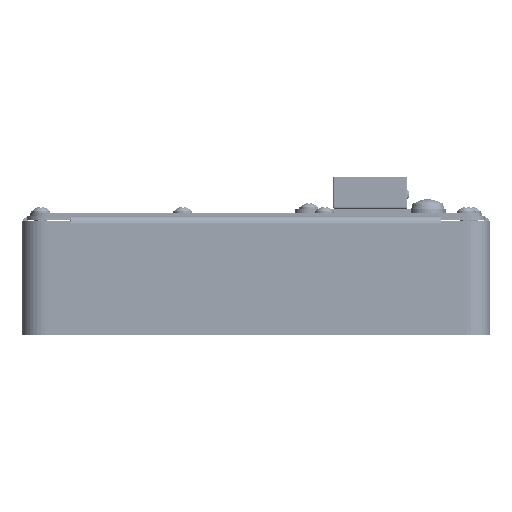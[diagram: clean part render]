
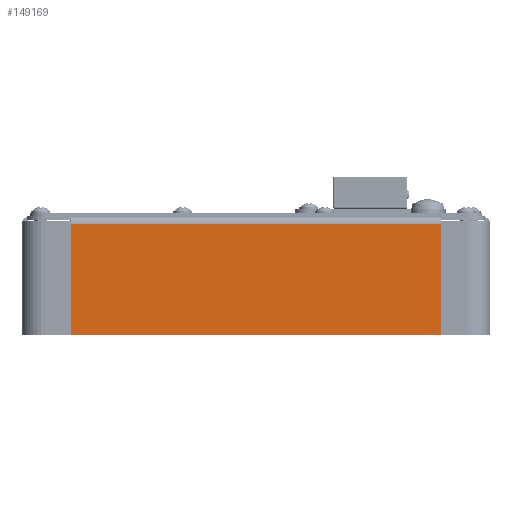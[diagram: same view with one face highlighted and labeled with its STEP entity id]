
A CAD part, left-side view. The second image highlights one B-rep face of the part: STEP entity #149169.
In plain terms, the highlighted planar face has unit normal (-1, 0, 0).
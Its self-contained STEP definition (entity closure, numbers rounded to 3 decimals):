
#17515 = ORIENTED_EDGE ( 'NONE', *, *, #120573, .F. ) ;
#17713 = DIRECTION ( 'NONE',  ( 0., 0., 1. ) ) ;
#20430 = PLANE ( 'NONE',  #202981 ) ;
#23348 = ORIENTED_EDGE ( 'NONE', *, *, #26991, .F. ) ;
#26937 = ORIENTED_EDGE ( 'NONE', *, *, #50345, .T. ) ;
#26991 = EDGE_CURVE ( 'NONE', #49081, #91493, #198767, .T. ) ;
#35754 = CARTESIAN_POINT ( 'NONE',  ( -199.5, -97.8, -63. ) ) ;
#43161 = VECTOR ( 'NONE', #219593, 1000. ) ;
#49081 = VERTEX_POINT ( 'NONE', #64139 ) ;
#50345 = EDGE_CURVE ( 'NONE', #68736, #91493, #216071, .T. ) ;
#51900 = CARTESIAN_POINT ( 'NONE',  ( -199.5, 97.8, -4. ) ) ;
#61114 = CARTESIAN_POINT ( 'NONE',  ( -199.5, 97.8, -63. ) ) ;
#64139 = CARTESIAN_POINT ( 'NONE',  ( -199.5, 97.8, -63. ) ) ;
#65425 = VECTOR ( 'NONE', #94512, 1000. ) ;
#68736 = VERTEX_POINT ( 'NONE', #81744 ) ;
#76434 = FACE_OUTER_BOUND ( 'NONE', #136739, .T. ) ;
#81744 = CARTESIAN_POINT ( 'NONE',  ( -199.5, -97.8, -4. ) ) ;
#86357 = DIRECTION ( 'NONE',  ( 0., 1., 0. ) ) ;
#89829 = CARTESIAN_POINT ( 'NONE',  ( -199.5, 0., -4. ) ) ;
#91493 = VERTEX_POINT ( 'NONE', #51900 ) ;
#94512 = DIRECTION ( 'NONE',  ( 0., 0., -1. ) ) ;
#108624 = CARTESIAN_POINT ( 'NONE',  ( -199.5, 0., 0. ) ) ;
#112309 = VECTOR ( 'NONE', #17713, 1000. ) ;
#116024 = VECTOR ( 'NONE', #86357, 1000. ) ;
#120573 = EDGE_CURVE ( 'NONE', #148834, #49081, #129086, .T. ) ;
#129086 = LINE ( 'NONE', #61114, #43161 ) ;
#136739 = EDGE_LOOP ( 'NONE', ( #203163, #26937, #23348, #17515 ) ) ;
#143987 = CARTESIAN_POINT ( 'NONE',  ( -199.5, 97.8, -2. ) ) ;
#148834 = VERTEX_POINT ( 'NONE', #35754 ) ;
#149169 = ADVANCED_FACE ( 'NONE', ( #76434 ), #20430, .T. ) ;
#149249 = LINE ( 'NONE', #170620, #65425 ) ;
#160971 = EDGE_CURVE ( 'NONE', #68736, #148834, #149249, .T. ) ;
#170620 = CARTESIAN_POINT ( 'NONE',  ( -199.5, -97.8, -63. ) ) ;
#198767 = LINE ( 'NONE', #143987, #112309 ) ;
#201505 = DIRECTION ( 'NONE',  ( -1., 0., 0. ) ) ;
#202981 = AXIS2_PLACEMENT_3D ( 'NONE', #108624, #201505, #220519 ) ;
#203163 = ORIENTED_EDGE ( 'NONE', *, *, #160971, .F. ) ;
#216071 = LINE ( 'NONE', #89829, #116024 ) ;
#219593 = DIRECTION ( 'NONE',  ( 0., 1., 0. ) ) ;
#220519 = DIRECTION ( 'NONE',  ( 0., 0., 1. ) ) ;
